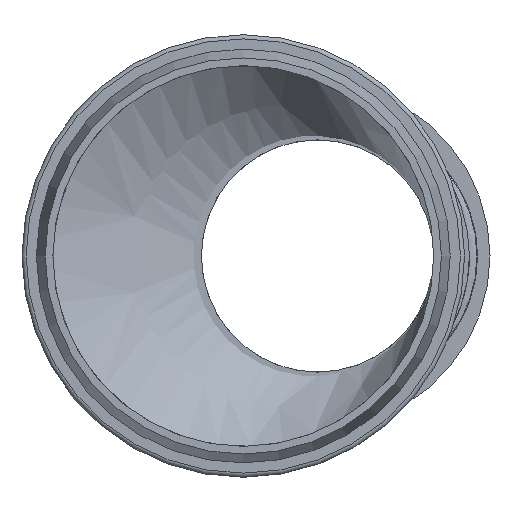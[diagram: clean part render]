
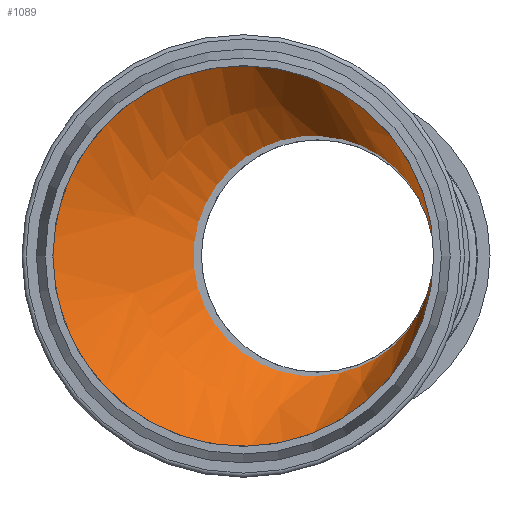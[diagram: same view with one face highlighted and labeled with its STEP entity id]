
A CAD part, front view. The second image highlights one B-rep face of the part: STEP entity #1089.
In plain terms, the highlighted free-form (B-spline) face has degree [1, 2] with [2, 9] control points.
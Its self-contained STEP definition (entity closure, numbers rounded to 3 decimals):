
#202=FACE_OUTER_BOUND($,#262,.T.);
#262=EDGE_LOOP($,(#729,#730,#731,#732,#733,#734));
#364=B_SPLINE_CURVE_WITH_KNOTS($,1,(#1611,#1612),.UNSPECIFIED.,.F.,.F.,
(2,2),(0.,1.029),.UNSPECIFIED.);
#414=CIRCLE($,#1162,14.075);
#415=CIRCLE($,#1163,14.075);
#416=CIRCLE($,#1164,23.075);
#417=CIRCLE($,#1165,23.075);
#473=VERTEX_POINT($,#1606);
#474=VERTEX_POINT($,#1607);
#475=VERTEX_POINT($,#1610);
#476=VERTEX_POINT($,#1613);
#584=EDGE_CURVE($,#473,#474,#414,.T.);
#585=EDGE_CURVE($,#474,#473,#415,.T.);
#586=EDGE_CURVE($,#474,#475,#364,.T.);
#587=EDGE_CURVE($,#475,#476,#416,.T.);
#588=EDGE_CURVE($,#476,#475,#417,.T.);
#729=ORIENTED_EDGE($,*,*,#584,.F.);
#730=ORIENTED_EDGE($,*,*,#585,.F.);
#731=ORIENTED_EDGE($,*,*,#586,.T.);
#732=ORIENTED_EDGE($,*,*,#587,.T.);
#733=ORIENTED_EDGE($,*,*,#588,.T.);
#734=ORIENTED_EDGE($,*,*,#586,.F.);
#1019=(
BOUNDED_SURFACE()
B_SPLINE_SURFACE(1,2,((#1588,#1589,#1590,#1591,#1592,#1593,#1594,#1595,
#1596),(#1597,#1598,#1599,#1600,#1601,#1602,#1603,#1604,#1605)),
 .UNSPECIFIED.,.F.,.T.,.F.)
B_SPLINE_SURFACE_WITH_KNOTS((2,2),(3,2,2,2,3),(-0.448,2.718),
(-3.142,-1.571,0.,1.571,3.142),
 .UNSPECIFIED.)
GEOMETRIC_REPRESENTATION_ITEM()
RATIONAL_B_SPLINE_SURFACE(((1.,0.707,1.,0.707,1.,
0.707,1.,0.707,1.),(1.,0.707,1.,0.707,
1.,0.707,1.,0.707,1.)))
REPRESENTATION_ITEM($)
SURFACE()
);
#1089=ADVANCED_FACE($,(#202),#1019,.T.);
#1162=AXIS2_PLACEMENT_3D($,#1608,#1293,#1294);
#1163=AXIS2_PLACEMENT_3D($,#1609,#1295,#1296);
#1164=AXIS2_PLACEMENT_3D($,#1614,#1297,#1298);
#1165=AXIS2_PLACEMENT_3D($,#1615,#1299,#1300);
#1293=DIRECTION('center_axis',(0.,-1.,0.));
#1294=DIRECTION('ref_axis',(1.,0.,0.));
#1295=DIRECTION('center_axis',(0.,-1.,0.));
#1296=DIRECTION('ref_axis',(1.,0.,0.));
#1297=DIRECTION('center_axis',(0.,-1.,0.));
#1298=DIRECTION('ref_axis',(1.,0.,0.));
#1299=DIRECTION('center_axis',(0.,-1.,0.));
#1300=DIRECTION('ref_axis',(1.,0.,0.));
#1588=CARTESIAN_POINT('Ctrl Pts',(16.842,68.863,9.366));
#1589=CARTESIAN_POINT('Ctrl Pts',(10.609,72.736,9.366));
#1590=CARTESIAN_POINT('Ctrl Pts',(10.609,72.736,0.));
#1591=CARTESIAN_POINT('Ctrl Pts',(10.609,72.736,-9.366));
#1592=CARTESIAN_POINT('Ctrl Pts',(16.842,68.863,-9.366));
#1593=CARTESIAN_POINT('Ctrl Pts',(23.075,64.99,-9.366));
#1594=CARTESIAN_POINT('Ctrl Pts',(23.075,64.99,0.));
#1595=CARTESIAN_POINT('Ctrl Pts',(23.075,64.99,9.366));
#1596=CARTESIAN_POINT('Ctrl Pts',(16.842,68.863,9.366));
#1597=CARTESIAN_POINT('Ctrl Pts',(-0.155,41.511,34.909));
#1598=CARTESIAN_POINT('Ctrl Pts',(-23.385,55.947,34.909));
#1599=CARTESIAN_POINT('Ctrl Pts',(-23.385,55.947,0.));
#1600=CARTESIAN_POINT('Ctrl Pts',(-23.385,55.947,-34.909));
#1601=CARTESIAN_POINT('Ctrl Pts',(-0.155,41.511,-34.909));
#1602=CARTESIAN_POINT('Ctrl Pts',(23.075,27.075,-34.909));
#1603=CARTESIAN_POINT('Ctrl Pts',(23.075,27.075,0.));
#1604=CARTESIAN_POINT('Ctrl Pts',(23.075,27.075,34.909));
#1605=CARTESIAN_POINT('Ctrl Pts',(-0.155,41.511,34.909));
#1606=CARTESIAN_POINT('',(23.075,64.99,0.));
#1607=CARTESIAN_POINT('',(14.435,64.99,12.983));
#1608=CARTESIAN_POINT('Origin',(9.,64.99,0.));
#1609=CARTESIAN_POINT('Origin',(9.,64.99,0.));
#1610=CARTESIAN_POINT('',(8.911,56.1,21.285));
#1611=CARTESIAN_POINT('Ctrl Pts',(14.435,64.99,12.983));
#1612=CARTESIAN_POINT('Ctrl Pts',(8.911,56.1,21.285));
#1613=CARTESIAN_POINT('',(23.075,56.1,0.));
#1614=CARTESIAN_POINT('Origin',(0.,56.1,0.));
#1615=CARTESIAN_POINT('Origin',(0.,56.1,0.));
